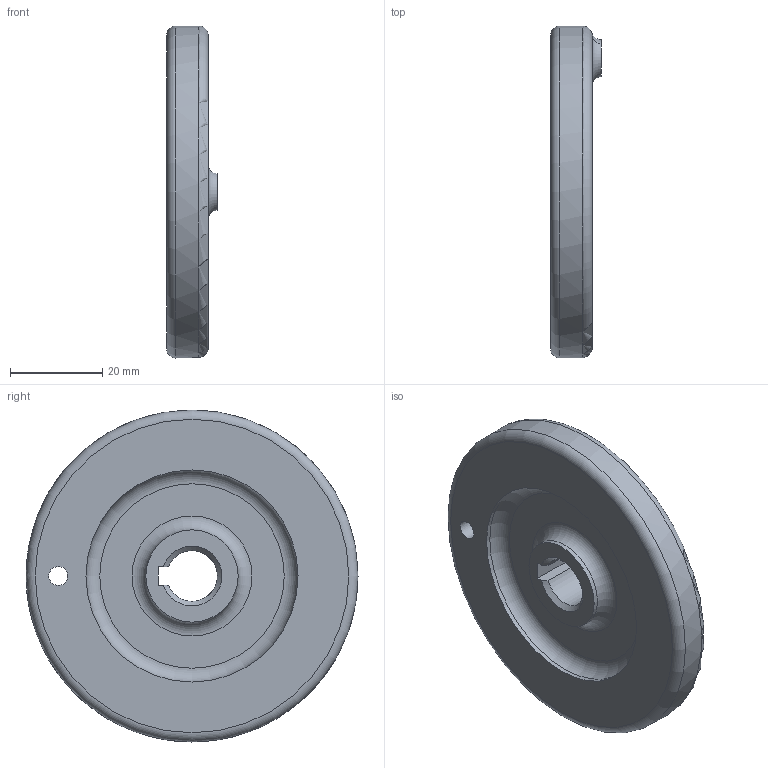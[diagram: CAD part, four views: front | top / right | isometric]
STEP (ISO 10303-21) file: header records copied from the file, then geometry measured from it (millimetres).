
FILE_DESCRIPTION((''),'2;1');
FILE_NAME('C:\Users\a\Desktop\630905E1002\630905E1002-돌림판.stp','2023-09-16T12:16:52',('a'),(''),'Autodesk Inventor 2013','Autodesk Inventor 2013','');
FILE_SCHEMA(('AUTOMOTIVE_DESIGN { 1 0 10303 214 1 1 1 1 }'));
Length unit declared in the file: millimetre
Products named in the file (1): 동력변환장치_돌림판
Bounding box: 11 x 72 x 72 mm (x, y, z)
Volume: 30286.9 mm3; surface area: 10633.6 mm2
Topology: 1 solids, 1 shells, 23 faces, 52 edges, 32 vertices
Faces by surface type: plane 8, cylinder 7, torus 5, cone 2, bspline 1
Full cylindrical faces by diameter (mm): 4.134 x1, 20 x1, 46 x1, 72 x1
Entity records: 648 total; most frequent: CARTESIAN_POINT 144, DIRECTION 104, ORIENTED_EDGE 82, AXIS2_PLACEMENT_3D 46, EDGE_CURVE 41, EDGE_LOOP 37, VERTEX_POINT 30, CIRCLE 23
